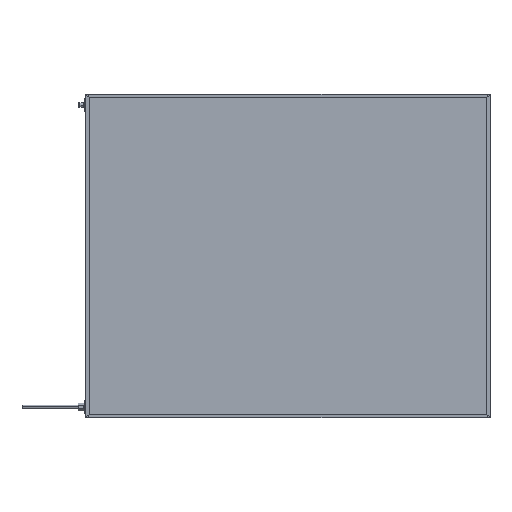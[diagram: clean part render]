
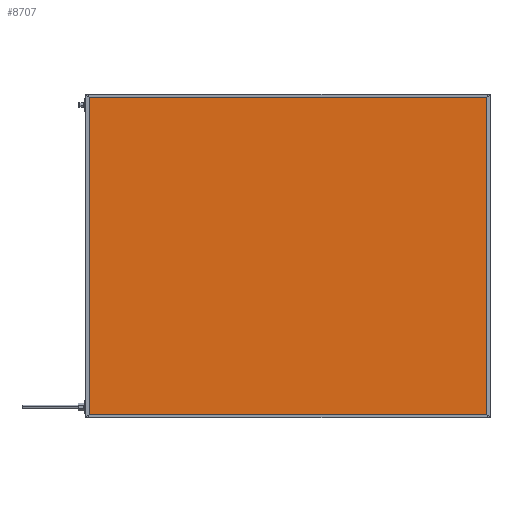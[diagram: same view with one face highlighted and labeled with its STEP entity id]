
A CAD part, top view. The second image highlights one B-rep face of the part: STEP entity #8707.
In plain terms, the highlighted planar face has unit normal (0, 0, 1).
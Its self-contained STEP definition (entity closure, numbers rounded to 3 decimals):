
#372 = VERTEX_POINT ( 'NONE', #17033 ) ;
#624 = VECTOR ( 'NONE', #2118, 1000. ) ;
#1025 = PLANE ( 'NONE',  #1821 ) ;
#1821 = AXIS2_PLACEMENT_3D ( 'NONE', #10677, #6590, #3671 ) ;
#2118 = DIRECTION ( 'NONE',  ( 0., -1., 0. ) ) ;
#2414 = EDGE_CURVE ( 'NONE', #10272, #16311, #14332, .T. ) ;
#2419 = CARTESIAN_POINT ( 'NONE',  ( 0., 796., 41.85 ) ) ;
#3671 = DIRECTION ( 'NONE',  ( -1., 0., 0. ) ) ;
#4803 = CARTESIAN_POINT ( 'NONE',  ( 0., 4., 41.85 ) ) ;
#5155 = EDGE_CURVE ( 'NONE', #372, #10272, #9078, .T. ) ;
#5807 = ORIENTED_EDGE ( 'NONE', *, *, #9410, .T. ) ;
#5817 = ORIENTED_EDGE ( 'NONE', *, *, #8441, .T. ) ;
#6524 = LINE ( 'NONE', #8150, #10842 ) ;
#6590 = DIRECTION ( 'NONE',  ( 0., 0., -1. ) ) ;
#7066 = VERTEX_POINT ( 'NONE', #7725 ) ;
#7400 = CARTESIAN_POINT ( 'NONE',  ( 4., 0., 41.85 ) ) ;
#7725 = CARTESIAN_POINT ( 'NONE',  ( 996., 4., 41.85 ) ) ;
#8150 = CARTESIAN_POINT ( 'NONE',  ( 996., 0., 41.85 ) ) ;
#8274 = ORIENTED_EDGE ( 'NONE', *, *, #2414, .T. ) ;
#8441 = EDGE_CURVE ( 'NONE', #7066, #372, #6524, .T. ) ;
#8707 = ADVANCED_FACE ( 'NONE', ( #12211 ), #1025, .F. ) ;
#8822 = VECTOR ( 'NONE', #11817, 1000. ) ;
#9078 = LINE ( 'NONE', #2419, #14309 ) ;
#9410 = EDGE_CURVE ( 'NONE', #16311, #7066, #17299, .T. ) ;
#10272 = VERTEX_POINT ( 'NONE', #15155 ) ;
#10677 = CARTESIAN_POINT ( 'NONE',  ( 0., 0., 41.85 ) ) ;
#10842 = VECTOR ( 'NONE', #17651, 1000. ) ;
#11817 = DIRECTION ( 'NONE',  ( 1., 0., 0. ) ) ;
#12211 = FACE_OUTER_BOUND ( 'NONE', #12526, .T. ) ;
#12526 = EDGE_LOOP ( 'NONE', ( #5817, #15177, #8274, #5807 ) ) ;
#13271 = DIRECTION ( 'NONE',  ( -1., 0., 0. ) ) ;
#14309 = VECTOR ( 'NONE', #13271, 1000. ) ;
#14332 = LINE ( 'NONE', #7400, #624 ) ;
#15155 = CARTESIAN_POINT ( 'NONE',  ( 4., 796., 41.85 ) ) ;
#15177 = ORIENTED_EDGE ( 'NONE', *, *, #5155, .T. ) ;
#15525 = CARTESIAN_POINT ( 'NONE',  ( 4., 4., 41.85 ) ) ;
#16311 = VERTEX_POINT ( 'NONE', #15525 ) ;
#17033 = CARTESIAN_POINT ( 'NONE',  ( 996., 796., 41.85 ) ) ;
#17299 = LINE ( 'NONE', #4803, #8822 ) ;
#17651 = DIRECTION ( 'NONE',  ( 0., 1., 0. ) ) ;
